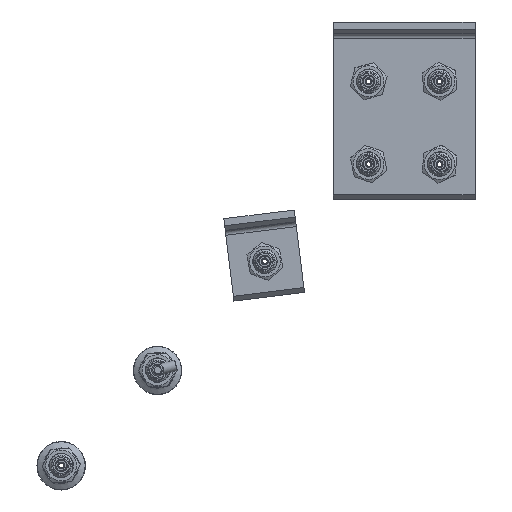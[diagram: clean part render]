
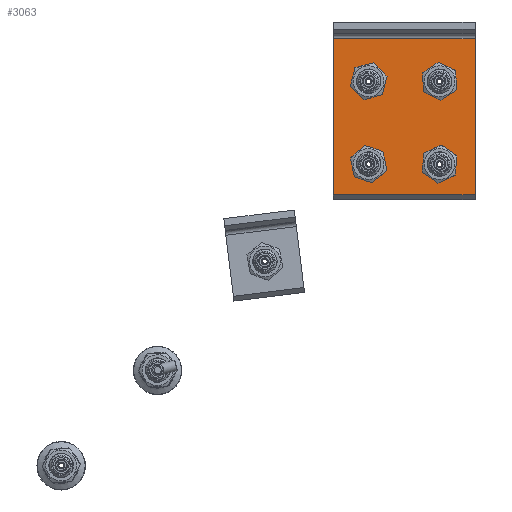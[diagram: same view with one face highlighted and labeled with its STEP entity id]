
A CAD part, top view. The second image highlights one B-rep face of the part: STEP entity #3063.
In plain terms, the highlighted planar face has unit normal (0, 0, 1) as drawn and (0, 1, 0) by its records, which use the part's own axes.
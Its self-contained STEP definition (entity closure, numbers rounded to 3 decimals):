
#343=FACE_BOUND('',#745,.T.);
#344=FACE_BOUND('',#746,.T.);
#345=FACE_BOUND('',#747,.T.);
#346=FACE_BOUND('',#748,.T.);
#404=PLANE('',#3490);
#546=FACE_OUTER_BOUND('',#744,.T.);
#744=EDGE_LOOP('',(#2322,#2323,#2324,#2325));
#745=EDGE_LOOP('',(#2326));
#746=EDGE_LOOP('',(#2327));
#747=EDGE_LOOP('',(#2328));
#748=EDGE_LOOP('',(#2329));
#963=LINE('',#5185,#1129);
#979=LINE('',#5233,#1145);
#985=LINE('',#5246,#1151);
#987=LINE('',#5249,#1153);
#1129=VECTOR('',#3940,10.);
#1145=VECTOR('',#3986,10.);
#1151=VECTOR('',#3998,10.);
#1153=VECTOR('',#4002,10.);
#1296=CIRCLE('',#3491,5.);
#1297=CIRCLE('',#3492,5.);
#1298=CIRCLE('',#3493,5.);
#1299=CIRCLE('',#3494,5.);
#1487=VERTEX_POINT('',#5178);
#1490=VERTEX_POINT('',#5183);
#1507=VERTEX_POINT('',#5231);
#1511=VERTEX_POINT('',#5244);
#1512=VERTEX_POINT('',#5250);
#1513=VERTEX_POINT('',#5252);
#1514=VERTEX_POINT('',#5254);
#1515=VERTEX_POINT('',#5256);
#1784=EDGE_CURVE('',#1490,#1487,#963,.T.);
#1808=EDGE_CURVE('',#1490,#1507,#979,.T.);
#1814=EDGE_CURVE('',#1511,#1507,#985,.T.);
#1816=EDGE_CURVE('',#1511,#1487,#987,.T.);
#1817=EDGE_CURVE('',#1512,#1512,#1296,.T.);
#1818=EDGE_CURVE('',#1513,#1513,#1297,.T.);
#1819=EDGE_CURVE('',#1514,#1514,#1298,.T.);
#1820=EDGE_CURVE('',#1515,#1515,#1299,.T.);
#2322=ORIENTED_EDGE('',*,*,#1784,.F.);
#2323=ORIENTED_EDGE('',*,*,#1808,.T.);
#2324=ORIENTED_EDGE('',*,*,#1814,.F.);
#2325=ORIENTED_EDGE('',*,*,#1816,.T.);
#2326=ORIENTED_EDGE('',*,*,#1817,.T.);
#2327=ORIENTED_EDGE('',*,*,#1818,.T.);
#2328=ORIENTED_EDGE('',*,*,#1819,.T.);
#2329=ORIENTED_EDGE('',*,*,#1820,.T.);
#3063=ADVANCED_FACE('',(#546,#343,#344,#345,#346),#404,.T.);
#3490=AXIS2_PLACEMENT_3D('',#5248,#4000,#4001);
#3491=AXIS2_PLACEMENT_3D('',#5251,#4003,#4004);
#3492=AXIS2_PLACEMENT_3D('',#5253,#4005,#4006);
#3493=AXIS2_PLACEMENT_3D('',#5255,#4007,#4008);
#3494=AXIS2_PLACEMENT_3D('',#5257,#4009,#4010);
#3940=DIRECTION('',(1.,0.,0.));
#3986=DIRECTION('',(0.,0.,1.));
#3998=DIRECTION('',(-1.,0.,0.));
#4000=DIRECTION('center_axis',(0.,1.,0.));
#4001=DIRECTION('ref_axis',(0.,0.,1.));
#4002=DIRECTION('',(0.,0.,-1.));
#4003=DIRECTION('center_axis',(0.,-1.,0.));
#4004=DIRECTION('ref_axis',(1.,0.,0.));
#4005=DIRECTION('center_axis',(0.,-1.,0.));
#4006=DIRECTION('ref_axis',(1.,0.,0.));
#4007=DIRECTION('center_axis',(0.,-1.,0.));
#4008=DIRECTION('ref_axis',(1.,0.,0.));
#4009=DIRECTION('center_axis',(0.,-1.,0.));
#4010=DIRECTION('ref_axis',(1.,0.,0.));
#5178=CARTESIAN_POINT('',(45.,5.,-53.));
#5183=CARTESIAN_POINT('',(-15.,5.,-53.));
#5185=CARTESIAN_POINT('',(-7.5,5.,-53.));
#5231=CARTESIAN_POINT('',(-15.,5.,13.));
#5233=CARTESIAN_POINT('',(-15.,5.,-20.));
#5244=CARTESIAN_POINT('',(45.,5.,13.));
#5246=CARTESIAN_POINT('',(-7.5,5.,13.));
#5248=CARTESIAN_POINT('Origin',(0.,5.,-2.5));
#5249=CARTESIAN_POINT('',(45.,5.,15.));
#5250=CARTESIAN_POINT('',(25.,5.,-35.));
#5251=CARTESIAN_POINT('Origin',(30.,5.,-35.));
#5252=CARTESIAN_POINT('',(25.,5.,0.));
#5253=CARTESIAN_POINT('Origin',(30.,5.,0.));
#5254=CARTESIAN_POINT('',(-5.,5.,-35.));
#5255=CARTESIAN_POINT('Origin',(0.,5.,-35.));
#5256=CARTESIAN_POINT('',(-5.,5.,0.));
#5257=CARTESIAN_POINT('Origin',(0.,5.,0.));
